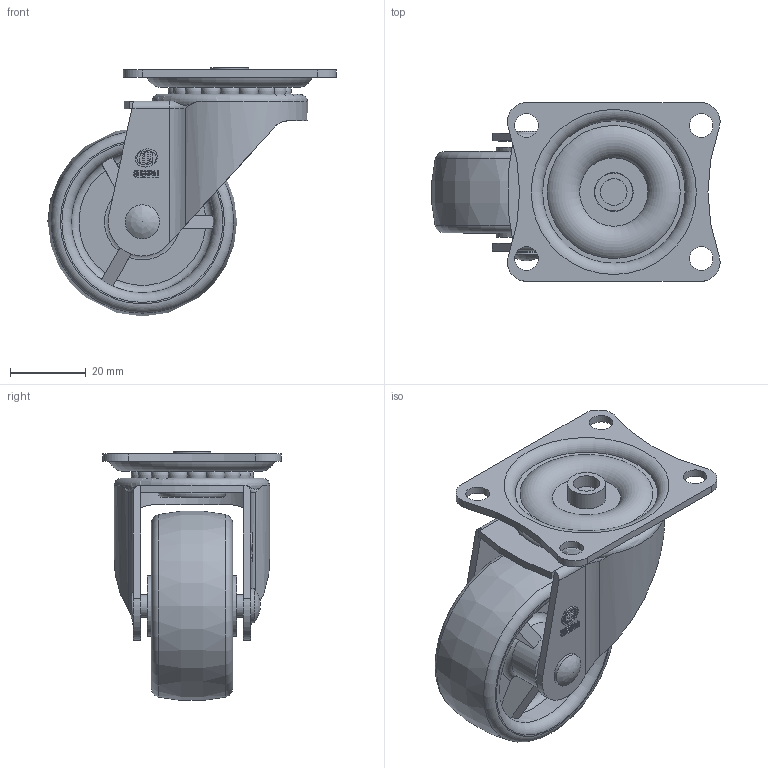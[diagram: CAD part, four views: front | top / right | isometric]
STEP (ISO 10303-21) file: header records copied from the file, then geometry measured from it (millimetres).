
FILE_DESCRIPTION(/* description */ (''),/* implementation_level */ '2;1');
FILE_NAME(/* name */ '10A12_2_F.stp',/* time_stamp */ '2022-10-06T13:44:00+08:00',/* author */ (''),/* organization */ (''),/* preprocessor_version */ 'ST-DEVELOPER v14',/* originating_system */ 'SIEMENS PLM Software NX 8.0',/* authorisation */ '');
FILE_SCHEMA (('AUTOMOTIVE_DESIGN { 1 0 10303 214 3 1 1 1 }'));
Length unit declared in the file: millimetre
Products named in the file (1): 10A12_2_F
Bounding box: 75.89 x 47 x 65.49 mm (x, y, z)
Volume: 40781.3 mm3; surface area: 26544.2 mm2
Topology: 1 solids, 1 shells, 349 faces, 974 edges, 645 vertices
Faces by surface type: plane 217, cylinder 65, torus 47, sphere 17, bspline 2, cone 1
Full cylindrical faces by diameter (mm): 5 x1, 6 x2, 6.2 x6, 7 x1, 9 x1, 10 x1, 10.2 x1, 12.4 x1, 12.8 x1, 16 x2, 37.4 x2
Entity records: 12282 total; most frequent: CARTESIAN_POINT 3957, ORIENTED_EDGE 1750, DIRECTION 1612, EDGE_CURVE 875, VERTEX_POINT 601, AXIS2_PLACEMENT_3D 588, LINE 436, VECTOR 436
